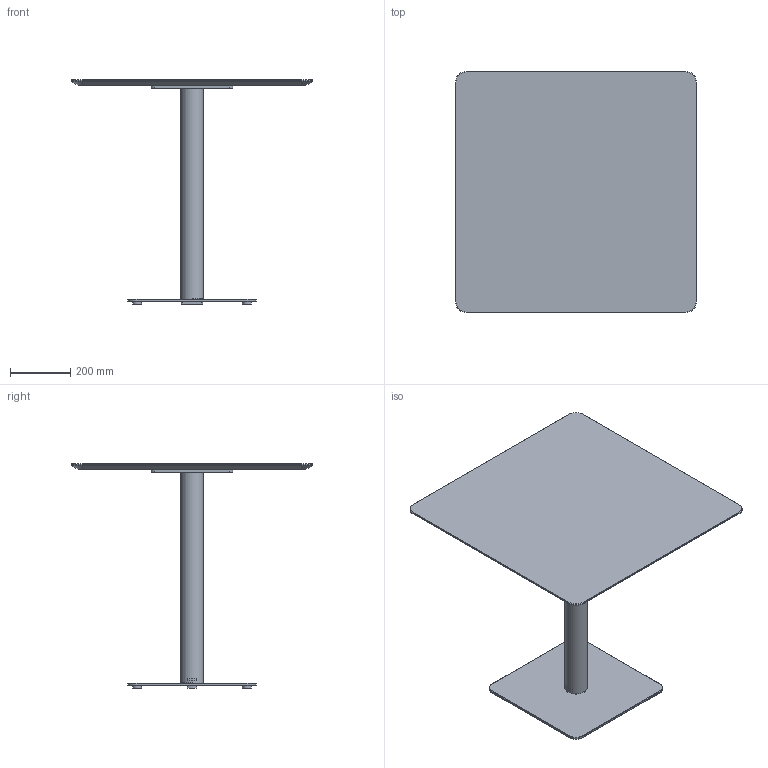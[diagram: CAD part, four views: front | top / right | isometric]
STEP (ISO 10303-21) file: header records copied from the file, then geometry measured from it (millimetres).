
FILE_DESCRIPTION( ('This file contains a STEP AP42 implementation' ,'as created by ZW3D STEP Interface translator.') ,'2;1' );
FILE_NAME( 'Henri - B_Carré - F3 - M5 - 800 x 800 x 750.stp' ,'24 912.171544', (''), ('ZWCAD Software Co.'), 'Version 1.0', 'ZW3D to STEP translator', '' );
FILE_SCHEMA(('AUTOMOTIVE_DESIGN { 1 0 10303 214 1 1 1 1 }'));
Length unit declared in the file: millimetre
Products named in the file (14): 0; PIED BISTROT PARAMETRIQUE_; COLONNE ACIER Ø76 V.02_; TUB-D076-02_; PLA-R76B-01_; CROIX ACIER 370 V.02_; CRX-X370-02_; SOCLE ACIER L 425x425 V.02_; SCL-R425-02_; PLA-R30A-01_; PLA-R30A-01; WUERTH 0276063020 Euro-screw 6.3x2 Verzinkt_; PLATEAU BISTROT PARAMETRIQUE_; insert_m6_13_
Assembly tree (22 placements, depth 3):
  0
  PIED BISTROT PARAMETRIQUE_
    COLONNE ACIER Ø76 V.02_
      TUB-D076-02_
      PLA-R76B-01_  x2
    CROIX ACIER 370 V.02_
      CRX-X370-02_
    SOCLE ACIER L 425x425 V.02_
      SCL-R425-02_
      PLA-R30A-01_
      PLA-R30A-01  x3
    WUERTH 0276063020 Euro-screw 6.3x2 Verzinkt_
    PLATEAU BISTROT PARAMETRIQUE_
      insert_m6_13_  x8
Bounding box: 800 x 800 x 744 mm (x, y, z)
Volume: 14552014.7 mm3; surface area: 2196410.8 mm2
Topology: 19 solids, 19 shells, 537 faces, 1310 edges, 822 vertices
Faces by surface type: plane 262, bspline 121, cylinder 98, cone 55, torus 1
Full cylindrical faces by diameter (mm): 4.88 x1, 6 x8, 6.3 x1, 8 x45, 12 x2, 14 x2, 30 x4, 72 x1, 76 x1
Entity records: 12310 total; most frequent: CARTESIAN_POINT 3396, ORIENTED_EDGE 1624, DIRECTION 1519, EDGE_CURVE 812, VERTEX_POINT 518, VECTOR 513, LINE 513, AXIS2_PLACEMENT_3D 503
